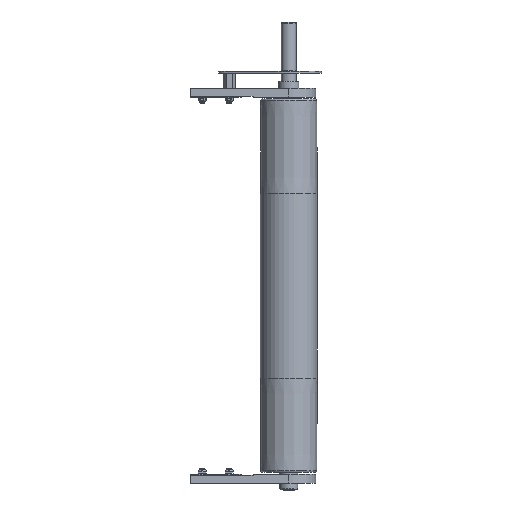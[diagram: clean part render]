
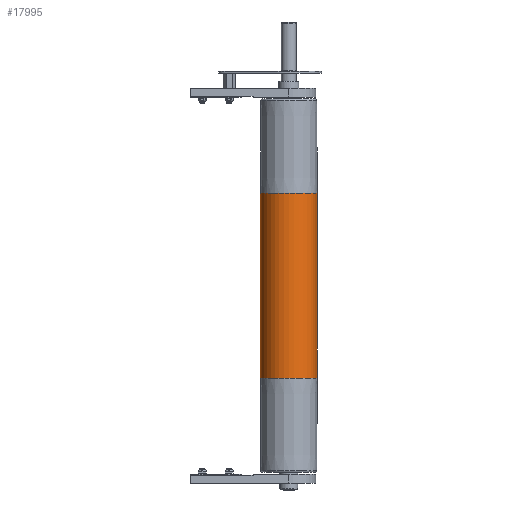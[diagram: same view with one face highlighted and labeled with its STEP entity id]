
A CAD part, front view. The second image highlights one B-rep face of the part: STEP entity #17995.
In plain terms, the highlighted cylindrical face has radius 47.5 mm (diameter 95 mm), a partial arc.
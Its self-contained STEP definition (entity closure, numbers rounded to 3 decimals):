
#870 = ORIENTED_EDGE ( 'NONE', *, *, #5343, .T. ) ;
#883 = FACE_OUTER_BOUND ( 'NONE', #14446, .T. ) ;
#1866 = VERTEX_POINT ( 'NONE', #10923 ) ;
#3368 = CIRCLE ( 'NONE', #11386, 47.5 ) ;
#3554 = DIRECTION ( 'NONE',  ( 1., 0., 0. ) ) ;
#3559 = CARTESIAN_POINT ( 'NONE',  ( -155., 0., 0. ) ) ;
#4865 = DIRECTION ( 'NONE',  ( -1., 0., 0. ) ) ;
#4928 = CARTESIAN_POINT ( 'NONE',  ( 155., 0., 0. ) ) ;
#5343 = EDGE_CURVE ( 'NONE', #18515, #6784, #3368, .T. ) ;
#6442 = DIRECTION ( 'NONE',  ( 0., 0., -1. ) ) ;
#6784 = VERTEX_POINT ( 'NONE', #9475 ) ;
#7438 = CARTESIAN_POINT ( 'NONE',  ( 155., 0., 47.5 ) ) ;
#7525 = ORIENTED_EDGE ( 'NONE', *, *, #11796, .F. ) ;
#7933 = CARTESIAN_POINT ( 'NONE',  ( 310., 0., 47.5 ) ) ;
#9475 = CARTESIAN_POINT ( 'NONE',  ( -155., 0., -47.5 ) ) ;
#10027 = ORIENTED_EDGE ( 'NONE', *, *, #20345, .F. ) ;
#10166 = CARTESIAN_POINT ( 'NONE',  ( 310., 0., -47.5 ) ) ;
#10704 = VERTEX_POINT ( 'NONE', #7438 ) ;
#10923 = CARTESIAN_POINT ( 'NONE',  ( 155., 0., -47.5 ) ) ;
#11386 = AXIS2_PLACEMENT_3D ( 'NONE', #3559, #14585, #17815 ) ;
#11796 = EDGE_CURVE ( 'NONE', #1866, #6784, #14630, .T. ) ;
#12178 = DIRECTION ( 'NONE',  ( 0., 0., 1. ) ) ;
#12243 = CARTESIAN_POINT ( 'NONE',  ( 310., 0., 0. ) ) ;
#13110 = DIRECTION ( 'NONE',  ( -1., 0., 0. ) ) ;
#13759 = DIRECTION ( 'NONE',  ( -1., 0., 0. ) ) ;
#14051 = ORIENTED_EDGE ( 'NONE', *, *, #16253, .T. ) ;
#14277 = AXIS2_PLACEMENT_3D ( 'NONE', #12243, #13759, #12178 ) ;
#14446 = EDGE_LOOP ( 'NONE', ( #7525, #10027, #14051, #870 ) ) ;
#14585 = DIRECTION ( 'NONE',  ( 1., 0., 0. ) ) ;
#14630 = LINE ( 'NONE', #10166, #19672 ) ;
#16253 = EDGE_CURVE ( 'NONE', #10704, #18515, #16566, .T. ) ;
#16503 = CYLINDRICAL_SURFACE ( 'NONE', #14277, 47.5 ) ;
#16566 = LINE ( 'NONE', #7933, #16806 ) ;
#16806 = VECTOR ( 'NONE', #4865, 1000. ) ;
#17137 = AXIS2_PLACEMENT_3D ( 'NONE', #4928, #3554, #6442 ) ;
#17815 = DIRECTION ( 'NONE',  ( 0., 0., -1. ) ) ;
#17995 = ADVANCED_FACE ( 'NONE', ( #883 ), #16503, .T. ) ;
#18515 = VERTEX_POINT ( 'NONE', #20242 ) ;
#19672 = VECTOR ( 'NONE', #13110, 1000. ) ;
#20242 = CARTESIAN_POINT ( 'NONE',  ( -155., 0., 47.5 ) ) ;
#20345 = EDGE_CURVE ( 'NONE', #10704, #1866, #20431, .T. ) ;
#20431 = CIRCLE ( 'NONE', #17137, 47.5 ) ;
